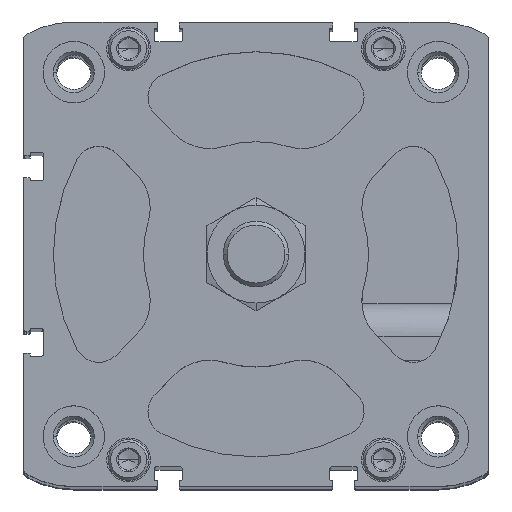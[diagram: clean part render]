
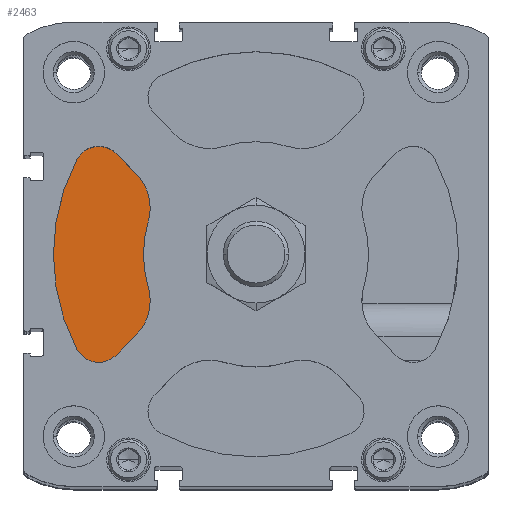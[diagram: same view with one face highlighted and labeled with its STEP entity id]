
A CAD part, top view. The second image highlights one B-rep face of the part: STEP entity #2463.
In plain terms, the highlighted planar face has unit normal (0, 0, 1).
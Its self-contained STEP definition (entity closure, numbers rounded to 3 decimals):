
#132 = ORIENTED_EDGE ( 'NONE', *, *, #7242, .T. ) ;
#141 = VERTEX_POINT ( 'NONE', #18804 ) ;
#806 = CARTESIAN_POINT ( 'NONE',  ( -29.356, 19.81, -18.8 ) ) ;
#871 = PLANE ( 'NONE',  #16314 ) ;
#1055 = DIRECTION ( 'NONE',  ( 0., 0., 1. ) ) ;
#1138 = CARTESIAN_POINT ( 'NONE',  ( -34.181, -24.635, -18.8 ) ) ;
#1269 = ORIENTED_EDGE ( 'NONE', *, *, #5408, .T. ) ;
#1415 = EDGE_CURVE ( 'NONE', #10087, #4225, #8421, .T. ) ;
#1581 = ORIENTED_EDGE ( 'NONE', *, *, #19729, .T. ) ;
#1639 = ORIENTED_EDGE ( 'NONE', *, *, #17163, .F. ) ;
#2175 = AXIS2_PLACEMENT_3D ( 'NONE', #9650, #12987, #16102 ) ;
#2463 = ADVANCED_FACE ( 'NONE', ( #5698 ), #871, .T. ) ;
#2860 = CIRCLE ( 'NONE', #2175, 49.5 ) ;
#3205 = AXIS2_PLACEMENT_3D ( 'NONE', #14745, #9285, #6083 ) ;
#3262 = CARTESIAN_POINT ( 'NONE',  ( -43.724, 23.205, -18.8 ) ) ;
#3397 = EDGE_CURVE ( 'NONE', #141, #7304, #11605, .T. ) ;
#4017 = DIRECTION ( 'NONE',  ( 0., 1., 0. ) ) ;
#4190 = DIRECTION ( 'NONE',  ( 0., 1., 0. ) ) ;
#4225 = VERTEX_POINT ( 'NONE', #9614 ) ;
#4263 = CIRCLE ( 'NONE', #15559, 27.5 ) ;
#4442 = CARTESIAN_POINT ( 'NONE',  ( 0., 0., -18.8 ) ) ;
#4512 = CARTESIAN_POINT ( 'NONE',  ( -26.345, -7.885, -18.8 ) ) ;
#4518 = EDGE_LOOP ( 'NONE', ( #6171, #10837, #14680, #1269, #1639, #9945, #1581, #18193, #132 ) ) ;
#5408 = EDGE_CURVE ( 'NONE', #20797, #13279, #15397, .T. ) ;
#5488 = CARTESIAN_POINT ( 'NONE',  ( -37.842, -11.325, -18.8 ) ) ;
#5528 = LINE ( 'NONE', #806, #10752 ) ;
#5698 = FACE_OUTER_BOUND ( 'NONE', #4518, .T. ) ;
#5750 = DIRECTION ( 'NONE',  ( 0.707, 0.707, 0. ) ) ;
#6083 = DIRECTION ( 'NONE',  ( 0., 1., 0. ) ) ;
#6098 = CARTESIAN_POINT ( 'NONE',  ( -26.345, 7.885, -18.8 ) ) ;
#6171 = ORIENTED_EDGE ( 'NONE', *, *, #16559, .T. ) ;
#6504 = CIRCLE ( 'NONE', #7886, 12. ) ;
#6521 = CARTESIAN_POINT ( 'NONE',  ( -29.356, 19.81, -18.8 ) ) ;
#6989 = EDGE_CURVE ( 'NONE', #7304, #20797, #12300, .T. ) ;
#7242 = EDGE_CURVE ( 'NONE', #4225, #9991, #18308, .T. ) ;
#7304 = VERTEX_POINT ( 'NONE', #1138 ) ;
#7472 = CARTESIAN_POINT ( 'NONE',  ( -34.181, -24.635, -18.8 ) ) ;
#7886 = AXIS2_PLACEMENT_3D ( 'NONE', #12126, #1055, #17157 ) ;
#8421 = CIRCLE ( 'NONE', #20422, 6. ) ;
#9011 = DIRECTION ( 'NONE',  ( 0., 1., 0. ) ) ;
#9285 = DIRECTION ( 'NONE',  ( 0., 0., 1. ) ) ;
#9434 = EDGE_CURVE ( 'NONE', #14807, #9583, #6504, .T. ) ;
#9583 = VERTEX_POINT ( 'NONE', #6521 ) ;
#9614 = CARTESIAN_POINT ( 'NONE',  ( -38.424, 26.393, -18.8 ) ) ;
#9650 = CARTESIAN_POINT ( 'NONE',  ( 0., 0., -18.8 ) ) ;
#9945 = ORIENTED_EDGE ( 'NONE', *, *, #9434, .T. ) ;
#9991 = VERTEX_POINT ( 'NONE', #3262 ) ;
#10087 = VERTEX_POINT ( 'NONE', #19890 ) ;
#10359 = DIRECTION ( 'NONE',  ( -0.707, 0.707, 0. ) ) ;
#10623 = DIRECTION ( 'NONE',  ( 0., 0., 1. ) ) ;
#10752 = VECTOR ( 'NONE', #10359, 1000. ) ;
#10837 = ORIENTED_EDGE ( 'NONE', *, *, #3397, .T. ) ;
#11605 = CIRCLE ( 'NONE', #19489, 6. ) ;
#12126 = CARTESIAN_POINT ( 'NONE',  ( -37.842, 11.325, -18.8 ) ) ;
#12300 = LINE ( 'NONE', #7472, #21047 ) ;
#12342 = CARTESIAN_POINT ( 'NONE',  ( -38.424, 20.393, -18.8 ) ) ;
#12346 = DIRECTION ( 'NONE',  ( 0., 0., 1. ) ) ;
#12455 = DIRECTION ( 'NONE',  ( 0., 0., 1. ) ) ;
#12935 = DIRECTION ( 'NONE',  ( 0., 0., 1. ) ) ;
#12987 = DIRECTION ( 'NONE',  ( 0., 0., 1. ) ) ;
#13279 = VERTEX_POINT ( 'NONE', #4512 ) ;
#14060 = DIRECTION ( 'NONE',  ( 1., 0., 0. ) ) ;
#14680 = ORIENTED_EDGE ( 'NONE', *, *, #6989, .T. ) ;
#14745 = CARTESIAN_POINT ( 'NONE',  ( -38.424, 20.393, -18.8 ) ) ;
#14807 = VERTEX_POINT ( 'NONE', #6098 ) ;
#15397 = CIRCLE ( 'NONE', #17806, 12. ) ;
#15559 = AXIS2_PLACEMENT_3D ( 'NONE', #4442, #17531, #4017 ) ;
#16102 = DIRECTION ( 'NONE',  ( 0., 1., 0. ) ) ;
#16314 = AXIS2_PLACEMENT_3D ( 'NONE', #19106, #12455, #14060 ) ;
#16559 = EDGE_CURVE ( 'NONE', #9991, #141, #2860, .T. ) ;
#17157 = DIRECTION ( 'NONE',  ( 0., 1., 0. ) ) ;
#17163 = EDGE_CURVE ( 'NONE', #14807, #13279, #4263, .T. ) ;
#17531 = DIRECTION ( 'NONE',  ( 0., 0., 1. ) ) ;
#17673 = DIRECTION ( 'NONE',  ( 0., 1., 0. ) ) ;
#17806 = AXIS2_PLACEMENT_3D ( 'NONE', #5488, #12346, #4190 ) ;
#18193 = ORIENTED_EDGE ( 'NONE', *, *, #1415, .T. ) ;
#18308 = CIRCLE ( 'NONE', #3205, 6. ) ;
#18429 = CARTESIAN_POINT ( 'NONE',  ( -29.356, -19.81, -18.8 ) ) ;
#18804 = CARTESIAN_POINT ( 'NONE',  ( -43.724, -23.205, -18.8 ) ) ;
#19106 = CARTESIAN_POINT ( 'NONE',  ( 0., 0., -18.8 ) ) ;
#19489 = AXIS2_PLACEMENT_3D ( 'NONE', #20886, #12935, #17673 ) ;
#19729 = EDGE_CURVE ( 'NONE', #9583, #10087, #5528, .T. ) ;
#19890 = CARTESIAN_POINT ( 'NONE',  ( -34.181, 24.635, -18.8 ) ) ;
#20422 = AXIS2_PLACEMENT_3D ( 'NONE', #12342, #10623, #9011 ) ;
#20797 = VERTEX_POINT ( 'NONE', #18429 ) ;
#20886 = CARTESIAN_POINT ( 'NONE',  ( -38.424, -20.393, -18.8 ) ) ;
#21047 = VECTOR ( 'NONE', #5750, 1000. ) ;
